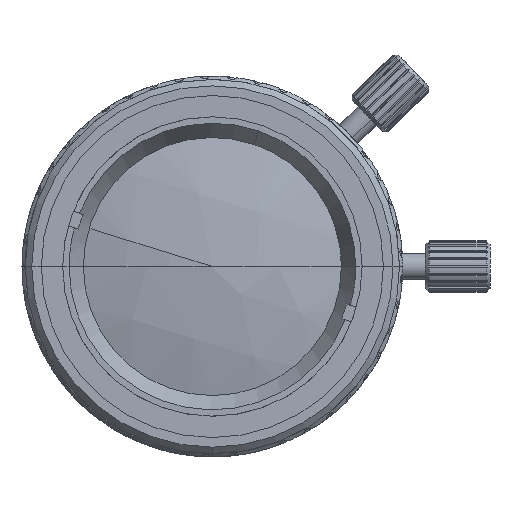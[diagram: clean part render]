
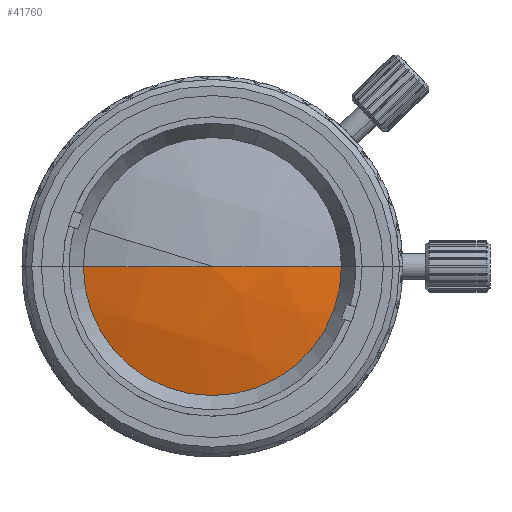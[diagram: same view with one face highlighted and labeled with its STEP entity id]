
A CAD part, left-side view. The second image highlights one B-rep face of the part: STEP entity #41760.
In plain terms, the highlighted spherical face has radius 38.72 mm.
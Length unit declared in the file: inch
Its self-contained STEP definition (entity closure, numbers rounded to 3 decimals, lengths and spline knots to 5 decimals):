
#7516 = EDGE_LOOP ( 'NONE', ( #10662, #7600 ) ) ;
#7600 = ORIENTED_EDGE ( 'NONE', *, *, #13306, .F. ) ;
#9035 = FACE_OUTER_BOUND ( 'NONE', #7516, .T. ) ;
#9455 = CARTESIAN_POINT ( 'NONE',  ( 0.61895, 0., 0. ) ) ;
#9667 = DIRECTION ( 'NONE',  ( 0., 0.296, -0.955 ) ) ;
#10662 = ORIENTED_EDGE ( 'NONE', *, *, #25606, .F. ) ;
#11144 = DIRECTION ( 'NONE',  ( 1., 0., 0. ) ) ;
#13306 = EDGE_CURVE ( 'NONE', #18632, #25810, #19392, .T. ) ;
#15868 = AXIS2_PLACEMENT_3D ( 'NONE', #17977, #41327, #11144 ) ;
#16465 = CARTESIAN_POINT ( 'NONE',  ( -0.85317, 0., 0. ) ) ;
#17977 = CARTESIAN_POINT ( 'NONE',  ( 0.61895, 0., 0. ) ) ;
#18632 = VERTEX_POINT ( 'NONE', #42742 ) ;
#19392 = CIRCLE ( 'NONE', #15868, 1.52441 ) ;
#20810 = CIRCLE ( 'NONE', #34889, 0.39583 ) ;
#23107 = DIRECTION ( 'NONE',  ( 0., 0.955, 0.296 ) ) ;
#24350 = CARTESIAN_POINT ( 'NONE',  ( -0.85317, -0.39583, 0. ) ) ;
#25606 = EDGE_CURVE ( 'NONE', #25810, #18632, #20810, .T. ) ;
#25810 = VERTEX_POINT ( 'NONE', #24350 ) ;
#31352 = AXIS2_PLACEMENT_3D ( 'NONE', #9455, #9667, #23107 ) ;
#32986 = DIRECTION ( 'NONE',  ( 1., 0., 0. ) ) ;
#33411 = DIRECTION ( 'NONE',  ( 0., 0., -1. ) ) ;
#34889 = AXIS2_PLACEMENT_3D ( 'NONE', #16465, #32986, #33411 ) ;
#41327 = DIRECTION ( 'NONE',  ( 0., 0., 1. ) ) ;
#41760 = ADVANCED_FACE ( 'NONE', ( #9035 ), #42941, .T. ) ;
#42742 = CARTESIAN_POINT ( 'NONE',  ( -0.85317, 0.39583, 0. ) ) ;
#42941 = SPHERICAL_SURFACE ( 'NONE', #31352, 1.52441 ) ;
